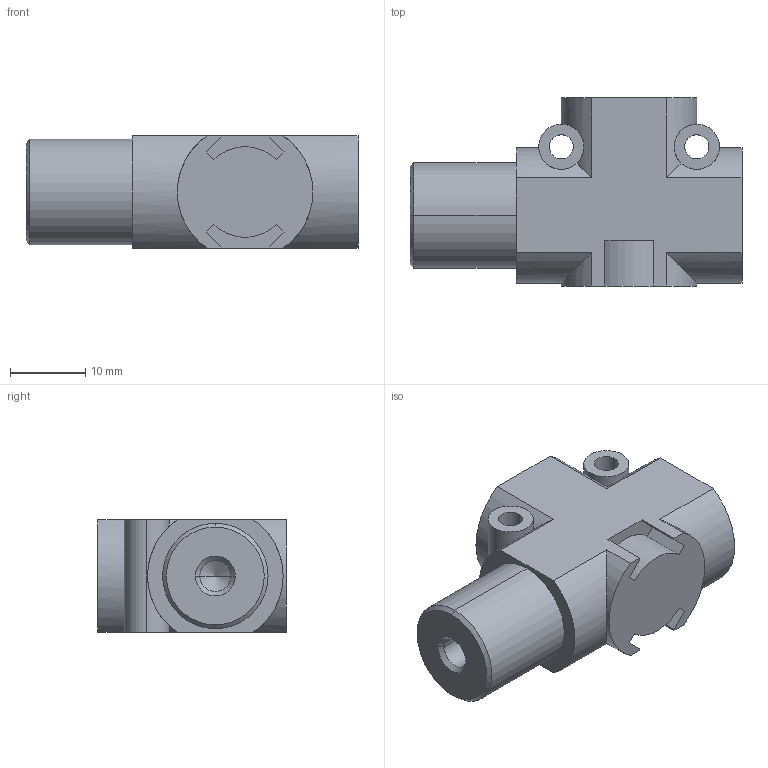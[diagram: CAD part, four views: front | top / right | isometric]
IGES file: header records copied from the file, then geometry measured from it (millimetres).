
Global section: file name: No Iges File Name specified; native system: Autodesk Inventor 2009; preprocessor: AutoDesk Inventor Iges Exporter R2009; author: rivolro1; date: 20090430.143918; units: millimetre
Bounding box: 44.1 x 25 x 15 mm (x, y, z)
Volume: 9805.9 mm3; surface area: 4715 mm2
Topology: 1 solids, 2 shells, 63 faces, 162 edges, 105 vertices
Faces by surface type: bspline 20, plane 20, cylinder 15, revolution 6, cone 2
